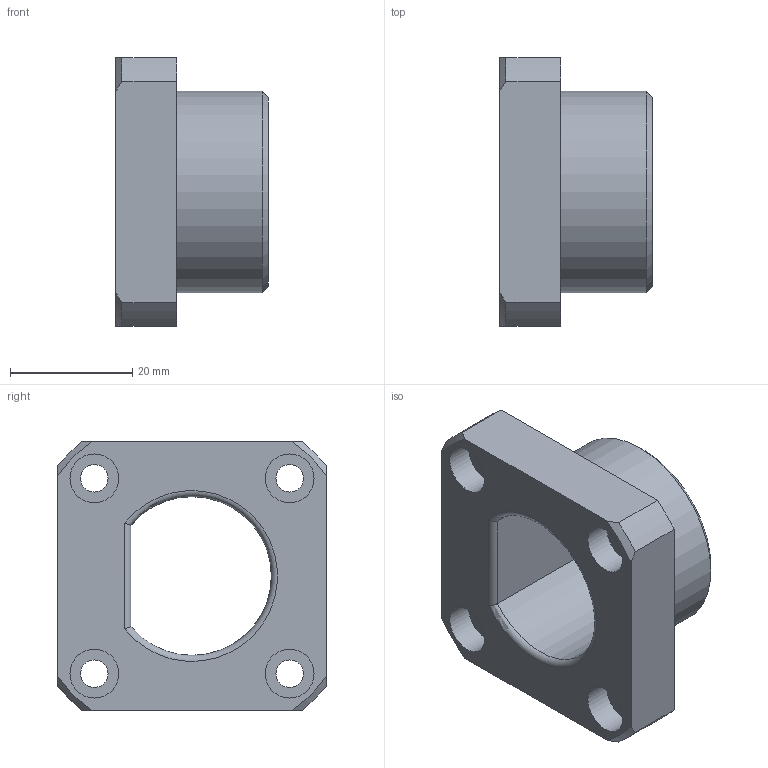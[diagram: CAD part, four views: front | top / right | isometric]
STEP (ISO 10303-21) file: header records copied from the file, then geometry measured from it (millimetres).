
FILE_DESCRIPTION(/* description */ (''),/* implementation_level */ '2;1');
FILE_NAME(/* name */ '',/* time_stamp */ '2025-05-27T17:27:50+09:00',/* author */ ('jhkim'),/* organization */ (''),/* preprocessor_version */ 'ST-DEVELOPER v20.1',/* originating_system */ 'Autodesk Inventor 2026',/* authorisation */ '');
FILE_SCHEMA (('AUTOMOTIVE_DESIGN { 1 0 10303 214 3 1 1 }'));
Length unit declared in the file: millimetre
Products named in the file (1): 수지 부시
Bounding box: 25 x 44 x 44 mm (x, y, z)
Volume: 18146.9 mm3; surface area: 8537.5 mm2
Topology: 1 solids, 1 shells, 35 faces, 79 edges, 51 vertices
Faces by surface type: cylinder 16, plane 12, cone 5, torus 2
Full cylindrical faces by diameter (mm): 4.5 x4, 8 x4, 33 x1
Entity records: 1083 total; most frequent: CARTESIAN_POINT 230, DIRECTION 174, ORIENTED_EDGE 158, EDGE_CURVE 79, AXIS2_PLACEMENT_3D 71, VERTEX_POINT 51, EDGE_LOOP 50, CIRCLE 35
